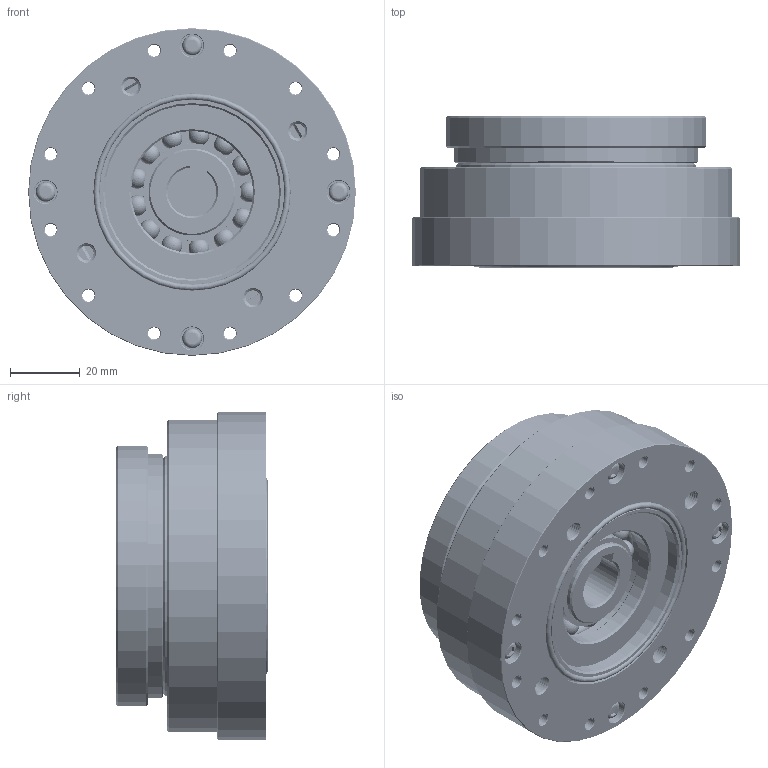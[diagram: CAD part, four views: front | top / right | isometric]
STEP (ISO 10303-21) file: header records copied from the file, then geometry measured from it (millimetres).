
FILE_DESCRIPTION (( 'STEP AP203' ), '1' );
FILE_NAME ('FA20（超薄新款）.STEP', '2026-03-08T13:38:08', ( '' ), ( '' ), 'SwSTEP 2.0', 'SolidWorks 2022', '' );
FILE_SCHEMA (( 'CONFIG_CONTROL_DESIGN' ));
Length unit declared in the file: millimetre
Products named in the file (55): FA20（超薄新款）; FA20（超薄新款）.sldasm-Part-29; FA20（超薄新款）.sldasm-Part-38; FA20（超薄新款）.sldasm-Part-54; FA20（超薄新款）.sldasm-Part-9; FA20（超薄新款）.sldasm-Part-39; FA20（超薄新款）.sldasm-Part-18; FA20（超薄新款）.sldasm-Part-15; FA20（超薄新款）.sldasm-Part-42; FA20（超薄新款）.sldasm-Part-21; FA20（超薄新款）.sldasm-Part-26; FA20（超薄新款）.sldasm-Part-47; FA20（超薄新款）.sldasm-Part-7; FA20（超薄新款）.sldasm-Part-17; FA20（超薄新款）.sldasm-Part-2; FA20（超薄新款）.sldasm-Part-8; FA20（超薄新款）.sldasm-Part-37; FA20（超薄新款）.sldasm-Part-12; FA20（超薄新款）.sldasm-Part-49; FA20（超薄新款）.sldasm-Part-32; FA20（超薄新款）.sldasm-Part-16; FA20（超薄新款）.sldasm-Part-13; FA20（超薄新款）.sldasm-Part-40; FA20（超薄新款）.sldasm-Part-6; FA20（超薄新款）.sldasm-Part-3; FA20（超薄新款）.sldasm-Part-23; FA20（超薄新款）.sldasm-Part-22; FA20（超薄新款）.sldasm-Part-51; FA20（超薄新款）.sldasm-Part-34; FA20（超薄新款）.sldasm-Part-28; FA20（超薄新款）.sldasm-Part-46; FA20（超薄新款）.sldasm-Part-33; FA20（超薄新款）.sldasm-Part-36; FA20（超薄新款）.sldasm-Part-41; FA20（超薄新款）.sldasm-Part-27; FA20（超薄新款）.sldasm-Part-30; FA20（超薄新款）.sldasm-Part-5; FA20（超薄新款）.sldasm-Part-24; FA20（超薄新款）.sldasm-Part-31; FA20（超薄新款）.sldasm-Part-50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
Assembly tree (60 placements, depth 2):
  FA20（超薄新款）
    FA20（超薄新款）.sldasm-Part-1
    FA20（超薄新款）.sldasm-Part-2  x4
    FA20（超薄新款）.sldasm-Part-3
    FA20（超薄新款）.sldasm-Part-4
    FA20（超薄新款）.sldasm-Part-5
    FA20（超薄新款）.sldasm-Part-6
    FA20（超薄新款）.sldasm-Part-7
    FA20（超薄新款）.sldasm-Part-8
    FA20（超薄新款）.sldasm-Part-9
    FA20（超薄新款）.sldasm-Part-10
    FA20（超薄新款）.sldasm-Part-11
    FA20（超薄新款）.sldasm-Part-12
    FA20（超薄新款）.sldasm-Part-13
    FA20（超薄新款）.sldasm-Part-14
    FA20（超薄新款）.sldasm-Part-15
    FA20（超薄新款）.sldasm-Part-16
    FA20（超薄新款）.sldasm-Part-17
    FA20（超薄新款）.sldasm-Part-18
    FA20（超薄新款）.sldasm-Part-19
    FA20（超薄新款）.sldasm-Part-20
    FA20（超薄新款）.sldasm-Part-21
    FA20（超薄新款）.sldasm-Part-22
    FA20（超薄新款）.sldasm-Part-23
    FA20（超薄新款）.sldasm-Part-24
    FA20（超薄新款）.sldasm-Part-25
    FA20（超薄新款）.sldasm-Part-26
    FA20（超薄新款）.sldasm-Part-27
    FA20（超薄新款）.sldasm-Part-28
    FA20（超薄新款）.sldasm-Part-29
    FA20（超薄新款）.sldasm-Part-30
    FA20（超薄新款）.sldasm-Part-31
    FA20（超薄新款）.sldasm-Part-32
    FA20（超薄新款）.sldasm-Part-33
    FA20（超薄新款）.sldasm-Part-34
    FA20（超薄新款）.sldasm-Part-35
    FA20（超薄新款）.sldasm-Part-36
    FA20（超薄新款）.sldasm-Part-37
    FA20（超薄新款）.sldasm-Part-38
    FA20（超薄新款）.sldasm-Part-39
    FA20（超薄新款）.sldasm-Part-40
    FA20（超薄新款）.sldasm-Part-41
    FA20（超薄新款）.sldasm-Part-42
    FA20（超薄新款）.sldasm-Part-43
    FA20（超薄新款）.sldasm-Part-44
    FA20（超薄新款）.sldasm-Part-45
    FA20（超薄新款）.sldasm-Part-46
    FA20（超薄新款）.sldasm-Part-47
    FA20（超薄新款）.sldasm-Part-48
    FA20（超薄新款）.sldasm-Part-49
    FA20（超薄新款）.sldasm-Part-50
    FA20（超薄新款）.sldasm-Part-51
    FA20（超薄新款）.sldasm-Part-52
    FA20（超薄新款）.sldasm-Part-53
    FA20（超薄新款）.sldasm-Part-54  x4
Bounding box: 94 x 43.4 x 94 mm (x, y, z)
Volume: 179435.4 mm3; surface area: 128395.1 mm2
Topology: 60 solids, 60 shells, 3030 faces, 8118 edges, 5235 vertices
Faces by surface type: cylinder 1958, cone 493, plane 367, bspline 96, sphere 68, torus 48
Entity records: 115726 total; most frequent: CARTESIAN_POINT 60947, ORIENTED_EDGE 10662, DIRECTION 9223, EDGE_CURVE 5331, AXIS2_PLACEMENT_3D 3614, VERTEX_POINT 3405, EDGE_LOOP 2422, FACE_OUTER_BOUND 2124
